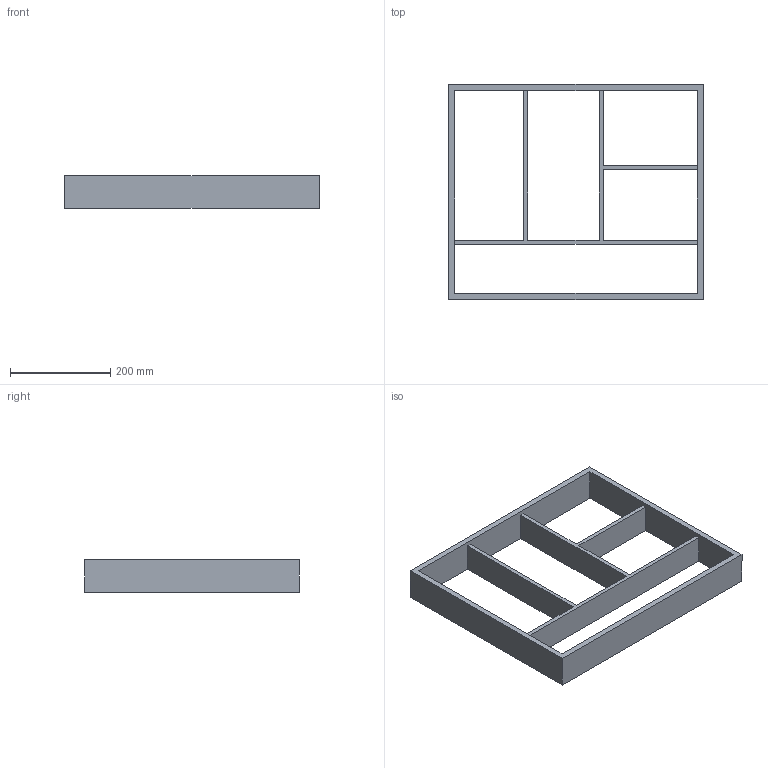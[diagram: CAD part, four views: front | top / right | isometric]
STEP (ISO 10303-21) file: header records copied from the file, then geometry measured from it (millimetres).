
FILE_DESCRIPTION (( 'STEP AP214' ), '1' );
FILE_NAME ('Vario Multi NL450_B600_16 mm_Alu.step', '2010-10-07T06:24:32', ( 'grass' ), ( '' ), 'SwSTEP 2.0', 'SolidWorks 2010', '' );
FILE_SCHEMA (( 'AUTOMOTIVE_DESIGN' ));
Length unit declared in the file: millimetre
Products named in the file (1): Vario Multi NL450_B600_16 mm_Alu
Bounding box: 508 x 429 x 65 mm (x, y, z)
Volume: 2003217.6 mm3; surface area: 442604 mm2
Topology: 1 solids, 1 shells, 22 faces, 72 edges, 48 vertices
Faces by surface type: plane 22
Entity records: 830 total; most frequent: ORIENTED_EDGE 144, CARTESIAN_POINT 143, DIRECTION 118, EDGE_CURVE 72, LINE 72, VECTOR 72, VERTEX_POINT 48, EDGE_LOOP 28
